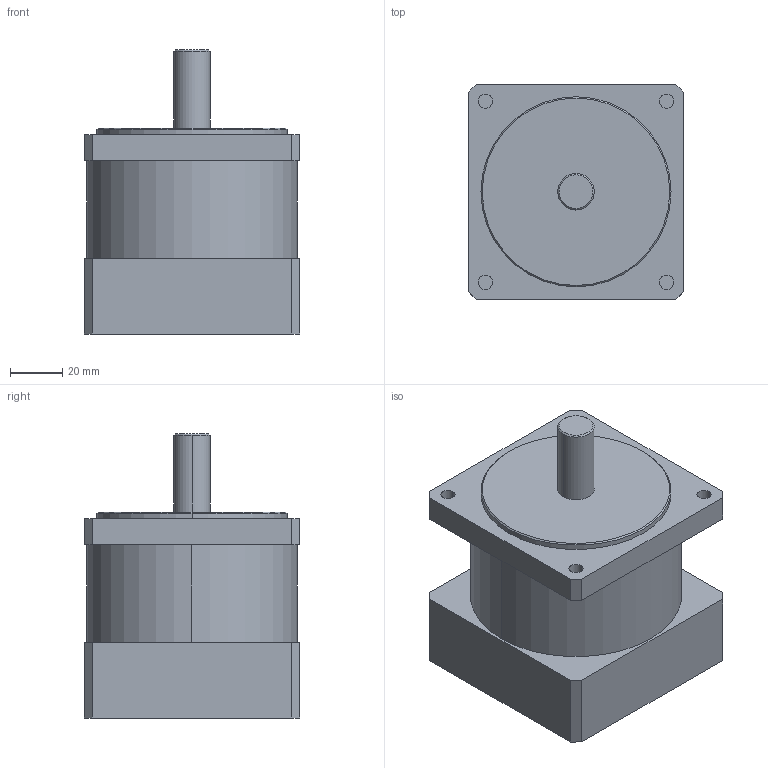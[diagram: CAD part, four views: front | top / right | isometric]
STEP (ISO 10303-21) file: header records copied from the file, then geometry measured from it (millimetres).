
FILE_DESCRIPTION (( 'STEP AP214' ), '1' );
FILE_NAME ('MPC034-24-XXX.STEP', '2015-05-21T21:17:21', ( '' ), ( '' ), 'SwSTEP 2.0', 'SolidWorks 2015', '' );
FILE_SCHEMA (( 'AUTOMOTIVE_DESIGN' ));
Length unit declared in the file: millimetre
Products named in the file (1): MPC034-24-XXX
Bounding box: 82.6 x 82.6 x 109.1 mm (x, y, z)
Volume: 438823.6 mm3; surface area: 49155.2 mm2
Topology: 1 solids, 1 shells, 68 faces, 162 edges, 100 vertices
Faces by surface type: cylinder 30, plane 26, cone 12
Entity records: 2199 total; most frequent: DIRECTION 356, CARTESIAN_POINT 323, ORIENTED_EDGE 308, EDGE_CURVE 154, AXIS2_PLACEMENT_3D 133, VERTEX_POINT 100, LINE 90, VECTOR 90
